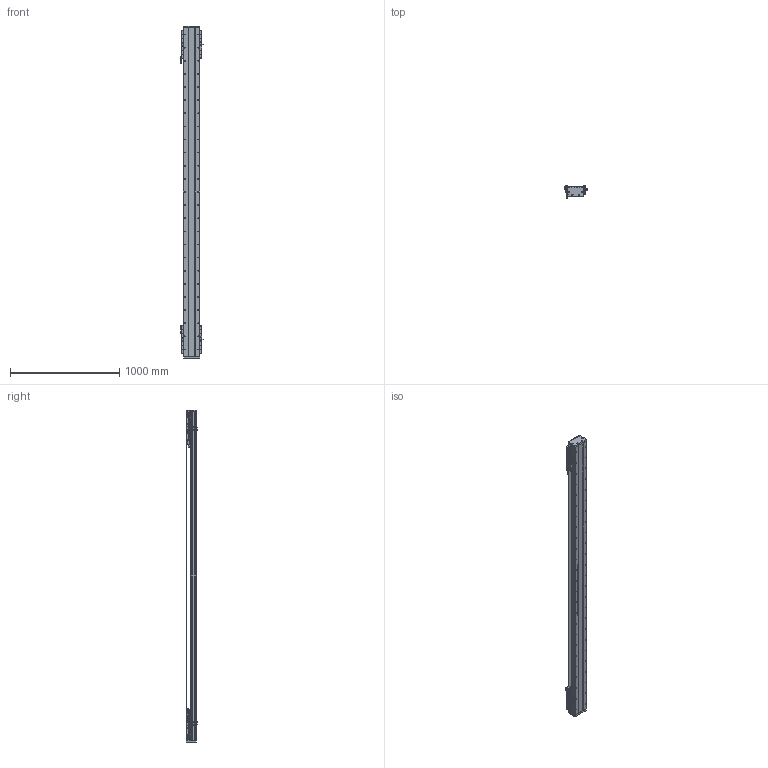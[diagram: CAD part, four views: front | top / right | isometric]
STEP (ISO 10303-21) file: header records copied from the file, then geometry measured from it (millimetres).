
FILE_DESCRIPTION (( 'STEP AP203' ), '1' );
FILE_NAME ('DA-C145-2-C3-T2420-C010-0.2 眻盄萇儂.STEP', '2025-08-13T10:27:38', ( '' ), ( '' ), 'SwSTEP 2.0', 'SolidWorks 2019', '' );
FILE_SCHEMA (( 'CONFIG_CONTROL_DESIGN' ));
Length unit declared in the file: millimetre
Products named in the file (38): 复件 DA145-C3-YB-A-00 压板A^CU145-W 滚珠滑台; 葩璃 鞠褒情蹟譫 M3^DA-C145-2-C3-T-C010-0.2; 复件 DA145 钢带^复件 CU145 钢带组件_DA-C145-2-C3-T-C010-0.2; 复件 DA95-DB-00  挡板^CU145-W 滚珠滑台; 葩璃 CU145 詩湍郪璃^DA-C145-2-C3-T-C010-0.2; 复件 DA145-GYP-00 光电感应片^DA-C145-2-C3-T-C010-0.2; CU145-W 幗紩賑怢-1; 66245-CU145-HT-W-00 賑雄怢啣(3D芞祧)(00); DA-C145-2-C3-T2420-C010-0.2 眻盄萇儂; 复件 DA146 钢带垫块^复件 CU145 钢带组件_DA-C145-2-C3-T-C010-0.2; DKW-KGZ-ZJ-00 中间光电开关支架; CU145-W 幗紩賑怢; 复件 DA145-C3-YB-B-00 压板B^CU145-W 滚珠滑台; DKW-GYP-ZJ-00 笢潔嫖萇覜茼え; 复件 DA145-C3-DK-00 挡块^CU145-W 滚珠滑台; 复件 DA145-DG 钢带端盖^复件 CU145 钢带组件_DA-C145-2-C3-T-C010-0.2; 复件 DA146 钢带拉块^复件 CU145 钢带组件_DA-C145-2-C3-T-C010-0.2; 葩璃 DA95-HXJ-00 遣喳砎蝶^DA-C145-2-C3-T-C010-0.2; IU-CU145-L 菁釱絳寢; 复件 纯铜油杯 6x6mm^CU145-W 滚珠滑台; 葩璃 XD-U-02L 棠掑喜^DA-C145-2-C3-T-C010-0.2; 复件 DA95-HK-GT-00 滑块钢轨^CU145-W-00 一体化滑动台板; IU-CU145-L-00 菁釱(L3000); 葩璃 DA145-C3-DP-B-00 菜えB^CU145-W 幗紩賑怢; 复件 DA95-MFP-01 密封片^CU145-W 滚珠滑台; 葩璃 DMA-010-0.2 黍杅芛^DA-C145-2-C3-T-C010-0.2; TAY01-M8; 葩璃 DA145-C3-DP-A-00 菜えA^CU145-W 幗紩賑怢; 复件 内六角平端紧定螺钉 GB.T77-2000 M5×10^CU145-W 滚珠滑台; 葩璃 CKMA01-W060-TRL^DA-C145-2-C3-T-C010-0.2; 复件 半圆头内六角螺钉 M3×6^CU145-W 滚珠滑台; 葩璃 PM-T45^DA-C145-2-C3-T-C010-0.2; DKW168-HXJ-ZJ-00 笢潔滅袉砎蝶; CU145-W-00 珨极趙賑雄怢啣-1; 葩璃 CKM03-W060-C1C2-TP-0.2^DA-C145-2-C3-T-C010-0.2; CU145-W-00 珨极趙賑雄怢啣; 葩璃 DA95-GT-T-00^IU-CU145-L 菁釱絳寢; 葩璃 PM-Y65^DA-C145-2-C3-T-C010-0.2
Assembly tree (180 placements, depth 4):
  DA-C145-2-C3-T2420-C010-0.2 眻盄萇儂
    IU-CU145-L 菁釱絳寢
      IU-CU145-L-00 菁釱(L3000)
      葩璃 DA95-GT-T-00^IU-CU145-L 菁釱絳寢  x4
    葩璃 CU145 詩湍郪璃^DA-C145-2-C3-T-C010-0.2
      复件 DA145-DG 钢带端盖^复件 CU145 钢带组件_DA-C145-2-C3-T-C010-0.2  x2
      复件 DA146 钢带拉块^复件 CU145 钢带组件_DA-C145-2-C3-T-C010-0.2  x2
      复件 DA146 钢带垫块^复件 CU145 钢带组件_DA-C145-2-C3-T-C010-0.2  x2
      复件 DA145 钢带^复件 CU145 钢带组件_DA-C145-2-C3-T-C010-0.2
    CU145-W 幗紩賑怢
      CU145-W-00 珨极趙賑雄怢啣
        66245-CU145-HT-W-00 賑雄怢啣(3D芞祧)(00)
        复件 DA95-HK-GT-00 滑块钢轨^CU145-W-00 一体化滑动台板  x8
      复件 DA95-MFP-01 密封片^CU145-W 滚珠滑台  x8
      复件 DA95-DB-00  挡板^CU145-W 滚珠滑台  x8
      复件 内六角平端紧定螺钉 GB.T77-2000 M5×10^CU145-W 滚珠滑台  x4
      复件 纯铜油杯 6x6mm^CU145-W 滚珠滑台  x4
      复件 半圆头内六角螺钉 M3×6^CU145-W 滚珠滑台  x16
      复件 DA145-C3-DK-00 挡块^CU145-W 滚珠滑台  x4
      葩璃 DA145-C3-DP-B-00 菜えB^CU145-W 幗紩賑怢  x2
      复件 DA145-C3-YB-B-00 压板B^CU145-W 滚珠滑台  x2
      葩璃 DA145-C3-DP-A-00 菜えA^CU145-W 幗紩賑怢  x3
      复件 DA145-C3-YB-A-00 压板A^CU145-W 滚珠滑台  x3
      TAY01-M8  x4
    CU145-W 幗紩賑怢-1
      CU145-W-00 珨极趙賑雄怢啣-1
        66245-CU145-HT-W-00 賑雄怢啣(3D芞祧)(00)
        复件 DA95-HK-GT-00 滑块钢轨^CU145-W-00 一体化滑动台板  x8
      复件 DA95-MFP-01 密封片^CU145-W 滚珠滑台  x8
      复件 DA95-DB-00  挡板^CU145-W 滚珠滑台  x8
      复件 内六角平端紧定螺钉 GB.T77-2000 M5×10^CU145-W 滚珠滑台  x4
      复件 纯铜油杯 6x6mm^CU145-W 滚珠滑台  x4
      复件 半圆头内六角螺钉 M3×6^CU145-W 滚珠滑台  x16
      复件 DA145-C3-DK-00 挡块^CU145-W 滚珠滑台  x4
      葩璃 DA145-C3-DP-B-00 菜えB^CU145-W 幗紩賑怢  x2
      复件 DA145-C3-YB-B-00 压板B^CU145-W 滚珠滑台  x2
      葩璃 DA145-C3-DP-A-00 菜えA^CU145-W 幗紩賑怢  x3
      复件 DA145-C3-YB-A-00 压板A^CU145-W 滚珠滑台  x3
      TAY01-M8  x4
    葩璃 CKMA01-W060-TRL^DA-C145-2-C3-T-C010-0.2
    葩璃 PM-T45^DA-C145-2-C3-T-C010-0.2  x4
    葩璃 XD-U-02L 棠掑喜^DA-C145-2-C3-T-C010-0.2
    葩璃 DA95-HXJ-00 遣喳砎蝶^DA-C145-2-C3-T-C010-0.2  x4
    葩璃 CKM03-W060-C1C2-TP-0.2^DA-C145-2-C3-T-C010-0.2  x2
    葩璃 DMA-010-0.2 黍杅芛^DA-C145-2-C3-T-C010-0.2  x2
    复件 DA145-GYP-00 光电感应片^DA-C145-2-C3-T-C010-0.2  x2
    DKW-GYP-ZJ-00 笢潔嫖萇覜茼え
    DKW-KGZ-ZJ-00 中间光电开关支架
    葩璃 PM-Y65^DA-C145-2-C3-T-C010-0.2
    葩璃 鞠褒情蹟譫 M3^DA-C145-2-C3-T-C010-0.2  x8
    DKW168-HXJ-ZJ-00 笢潔滅袉砎蝶
Bounding box: 213.7 x 108.45 x 3036 mm (x, y, z)
Volume: 15874299.7 mm3; surface area: 5095508.5 mm2
Topology: 175 solids, 239 shells, 7730 faces, 21165 edges, 13129 vertices
Faces by surface type: cylinder 3433, plane 2957, cone 1184, torus 140, sphere 8, bspline 8
Entity records: 150308 total; most frequent: CARTESIAN_POINT 44432, ORIENTED_EDGE 21016, DIRECTION 19837, EDGE_CURVE 10508, AXIS2_PLACEMENT_3D 7317, VERTEX_POINT 6828, VECTOR 5203, LINE 5203
